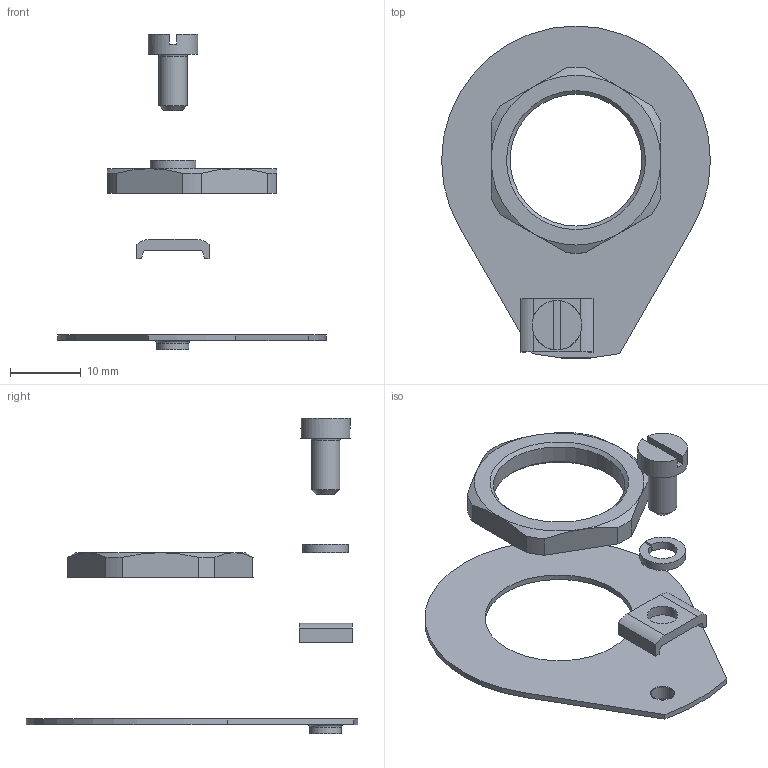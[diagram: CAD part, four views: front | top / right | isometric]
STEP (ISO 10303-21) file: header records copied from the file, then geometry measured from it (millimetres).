
FILE_DESCRIPTION(/* description */ ('Unknown'),/* implementation_level */ '2;1');
FILE_NAME(/* name */ 'ZS4 1_2',/* time_stamp */ '2021-10-13T11:32:01+02:00',/* author */ ('Unknown'),/* organization */ ('Unknown'),/* preprocessor_version */ 'ST-DEVELOPER v16.7',/* originating_system */ 'Solid Edge',/* authorisation */ 'Unknown');
FILE_SCHEMA (('AUTOMOTIVE_DESIGN {1 0 10303 214 3 1 1}'));
Length unit declared in the file: millimetre
Products named in the file (1): ZS4 1_2
Bounding box: 38 x 46.92 x 44.6 mm (x, y, z)
Volume: 1851.9 mm3; surface area: 3557 mm2
Topology: 5 solids, 5 shells, 67 faces, 155 edges, 100 vertices
Faces by surface type: plane 34, cylinder 21, cone 9, torus 3
Full cylindrical faces by diameter (mm): 3.242 x1, 4 x1, 4.3 x1, 4.5 x1, 7 x1, 18.631 x1, 21 x1
Entity records: 2198 total; most frequent: CARTESIAN_POINT 340, DIRECTION 324, ORIENTED_EDGE 278, EDGE_CURVE 139, AXIS2_PLACEMENT_3D 129, VERTEX_POINT 97, EDGE_LOOP 90, FACE_BOUND 90
